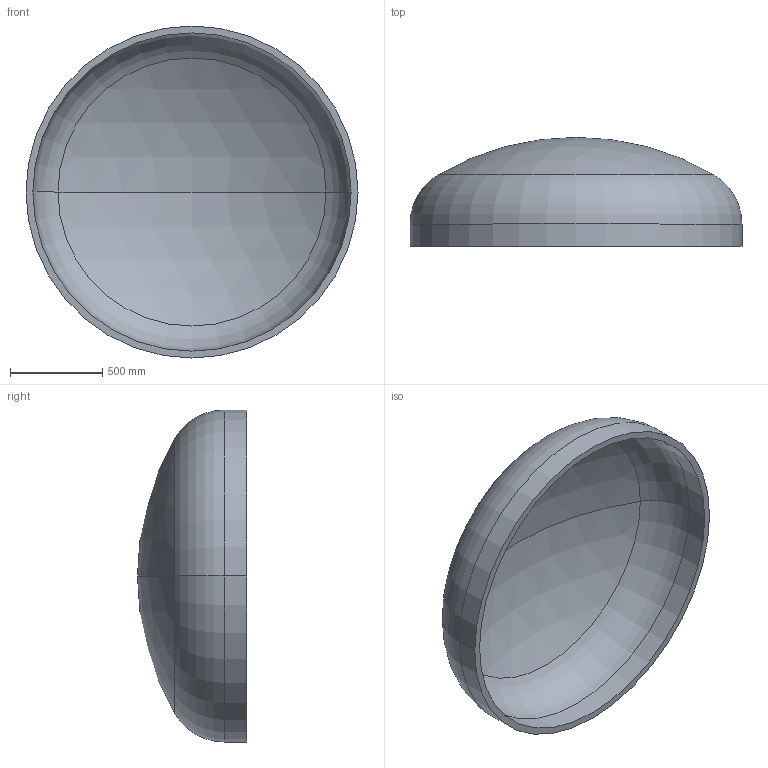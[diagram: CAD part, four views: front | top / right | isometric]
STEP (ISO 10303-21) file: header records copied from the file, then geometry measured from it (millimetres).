
FILE_DESCRIPTION (( 'STEP AP203' ), '1' );
FILE_NAME ('DIN 28013 Korbbogenform_-_Boden DIN 28013 - 1800 x 120 - I - s=37.step', '2016-07-01T12:28:29', ( '' ), ( '' ), 'SwSTEP 2.0', 'SolidWorks 2013', '' );
FILE_SCHEMA (( 'CONFIG_CONTROL_DESIGN' ));
Length unit declared in the file: millimetre
Products named in the file (1): DIN 28013 Korbbogenform_-_Boden DIN 28013 - 1800 x 120 - I - s=37
Bounding box: 1800 x 591.28 x 1800 mm (x, y, z)
Volume: 151312489.2 mm3; surface area: 8386847.4 mm2
Topology: 1 solids, 1 shells, 13 faces, 24 edges, 14 vertices
Faces by surface type: torus 4, cylinder 4, sphere 4, plane 1
Entity records: 407 total; most frequent: DIRECTION 72, CARTESIAN_POINT 52, ORIENTED_EDGE 48, AXIS2_PLACEMENT_3D 34, EDGE_CURVE 24, CIRCLE 20, EDGE_LOOP 14, VERTEX_POINT 14
